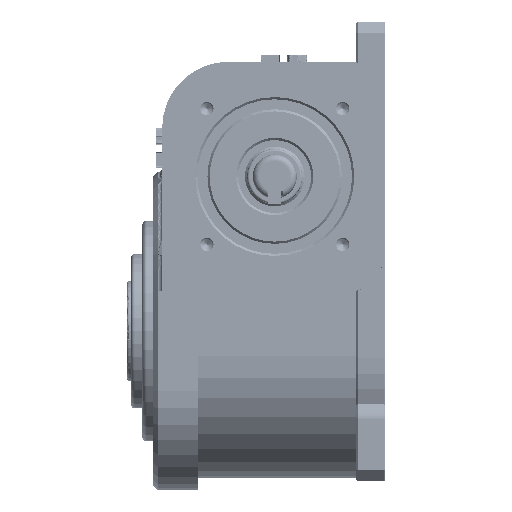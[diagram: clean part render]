
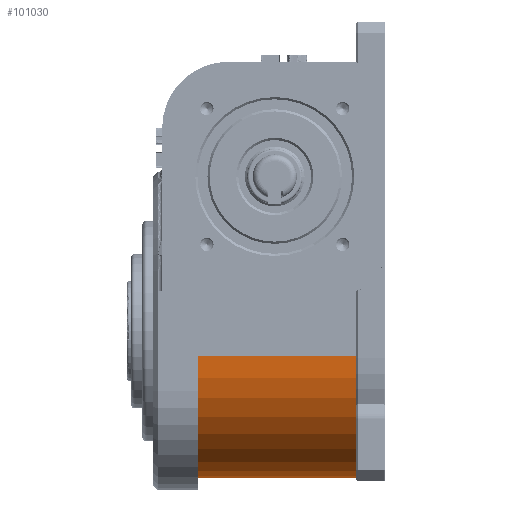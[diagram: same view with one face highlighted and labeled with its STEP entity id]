
A CAD part, left-side view. The second image highlights one B-rep face of the part: STEP entity #101030.
In plain terms, the highlighted cylindrical face has radius 55 mm (diameter 110 mm), a partial arc.
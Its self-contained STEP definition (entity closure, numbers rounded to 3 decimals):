
#775 = CARTESIAN_POINT ( 'NONE',  ( -11.5, 85., -66.5 ) ) ;
#2592 = AXIS2_PLACEMENT_3D ( 'NONE', #63578, #10413, #72515 ) ;
#3434 = VERTEX_POINT ( 'NONE', #62389 ) ;
#8622 = VERTEX_POINT ( 'NONE', #113517 ) ;
#10413 = DIRECTION ( 'NONE',  ( 0., -1., 0. ) ) ;
#12653 = EDGE_CURVE ( 'NONE', #100704, #3434, #49086, .T. ) ;
#27207 = EDGE_CURVE ( 'NONE', #8622, #3434, #72060, .T. ) ;
#27729 = CARTESIAN_POINT ( 'NONE',  ( -11.5, 13., -11.5 ) ) ;
#33222 = CARTESIAN_POINT ( 'NONE',  ( -66.5, 85., -11.5 ) ) ;
#33436 = VERTEX_POINT ( 'NONE', #48183 ) ;
#36437 = DIRECTION ( 'NONE',  ( 0., -1., 0. ) ) ;
#36638 = DIRECTION ( 'NONE',  ( 0., 0., -1. ) ) ;
#40888 = LINE ( 'NONE', #33222, #93623 ) ;
#44641 = CYLINDRICAL_SURFACE ( 'NONE', #85038, 55. ) ;
#48183 = CARTESIAN_POINT ( 'NONE',  ( -66.5, 85., -11.5 ) ) ;
#49086 = LINE ( 'NONE', #775, #61567 ) ;
#49587 = CIRCLE ( 'NONE', #2592, 55. ) ;
#51584 = AXIS2_PLACEMENT_3D ( 'NONE', #27729, #89823, #36638 ) ;
#57003 = EDGE_CURVE ( 'NONE', #8622, #33436, #40888, .T. ) ;
#61567 = VECTOR ( 'NONE', #36437, 1000. ) ;
#62389 = CARTESIAN_POINT ( 'NONE',  ( -11.5, 13., -66.5 ) ) ;
#63578 = CARTESIAN_POINT ( 'NONE',  ( -11.5, 85., -11.5 ) ) ;
#68215 = ORIENTED_EDGE ( 'NONE', *, *, #57003, .T. ) ;
#69032 = ORIENTED_EDGE ( 'NONE', *, *, #27207, .F. ) ;
#72060 = CIRCLE ( 'NONE', #51584, 55. ) ;
#72515 = DIRECTION ( 'NONE',  ( 0., 0., -1. ) ) ;
#73168 = EDGE_LOOP ( 'NONE', ( #69032, #68215, #85562, #93522 ) ) ;
#73579 = CARTESIAN_POINT ( 'NONE',  ( -11.5, 85., -66.5 ) ) ;
#77498 = DIRECTION ( 'NONE',  ( 0., 1., 0. ) ) ;
#78160 = DIRECTION ( 'NONE',  ( 0., 0., -1. ) ) ;
#85038 = AXIS2_PLACEMENT_3D ( 'NONE', #87064, #104469, #78160 ) ;
#85562 = ORIENTED_EDGE ( 'NONE', *, *, #87654, .T. ) ;
#87064 = CARTESIAN_POINT ( 'NONE',  ( -11.5, 85., -11.5 ) ) ;
#87654 = EDGE_CURVE ( 'NONE', #33436, #100704, #49587, .T. ) ;
#89823 = DIRECTION ( 'NONE',  ( 0., -1., 0. ) ) ;
#93522 = ORIENTED_EDGE ( 'NONE', *, *, #12653, .T. ) ;
#93623 = VECTOR ( 'NONE', #77498, 1000. ) ;
#100704 = VERTEX_POINT ( 'NONE', #73579 ) ;
#101030 = ADVANCED_FACE ( 'NONE', ( #113886 ), #44641, .T. ) ;
#104469 = DIRECTION ( 'NONE',  ( 0., -1., 0. ) ) ;
#113517 = CARTESIAN_POINT ( 'NONE',  ( -66.5, 13., -11.5 ) ) ;
#113886 = FACE_OUTER_BOUND ( 'NONE', #73168, .T. ) ;
